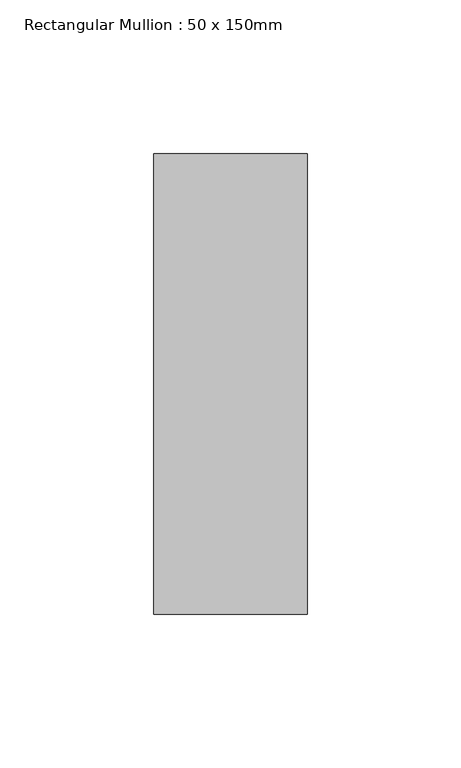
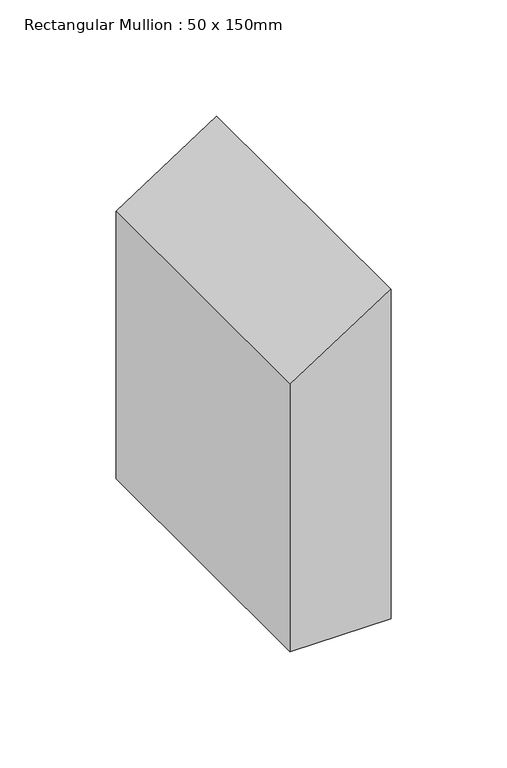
"""IFC4 building model written with IfcOpenShell, lengths in millimetres: member geometry, Rectangular Mullion : 50 x 150mm."""

from ifc_helpers import new_model, si_unit, frame, origin, place, context, project, spatial, polyline, outline, extrude, source, transform, mapped, element, save


def rectangular_mullion_50_x_150mm_808a7f52(model_context):
    return source(origin(), model_context, "Body", "SweptSolid", [
        extrude(outline(polyline([(-43.3780246, 25.0), (-75.7358326, -25.0), (-216.3949841, -25.0), (-216.3949841, 25.0), (-43.3780246, 25.0)])), frame((0.0, -75.0, 0.0), z_axis=(0.0, 1.0, 0.0), x_axis=(0.0, 0.0, 1.0)), (0.0, 0.0, 1.0), 150.0),
    ])


if __name__ == "__main__":
    model = new_model("IFC4")
    model_context = context("Model", 3, world=origin())
    ifc_project = project(units=[si_unit("LENGTHUNIT", "METRE", prefix="MILLI")], contexts=[model_context])
    site = spatial("IfcSite", under=ifc_project)
    building = spatial("IfcBuilding", under=site)
    placement = place(None, origin())
    rectangular_mullion_50_x_150mm_shape = rectangular_mullion_50_x_150mm_808a7f52(model_context)
    element("IfcMember", 1, ObjectType="Rectangular Mullion : 50 x 150mm", at=placement, inside=building, context=model_context, shape_type="MappedRepresentation", body=[
        mapped(rectangular_mullion_50_x_150mm_shape, transform((0.0, 0.0, 0.0), x_axis=(1.0, 0.0, 0.0), y_axis=(0.0, 1.0, 0.0), z_axis=(0.0, 0.0, 1.0))),
    ])
    save(model, "model.ifc")
